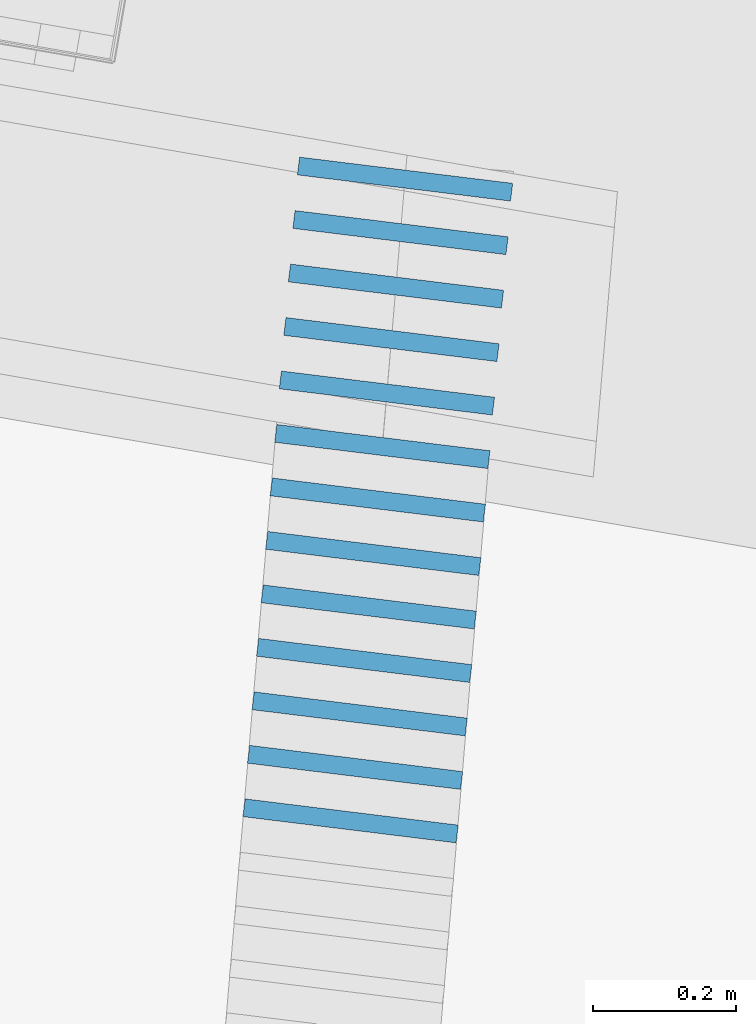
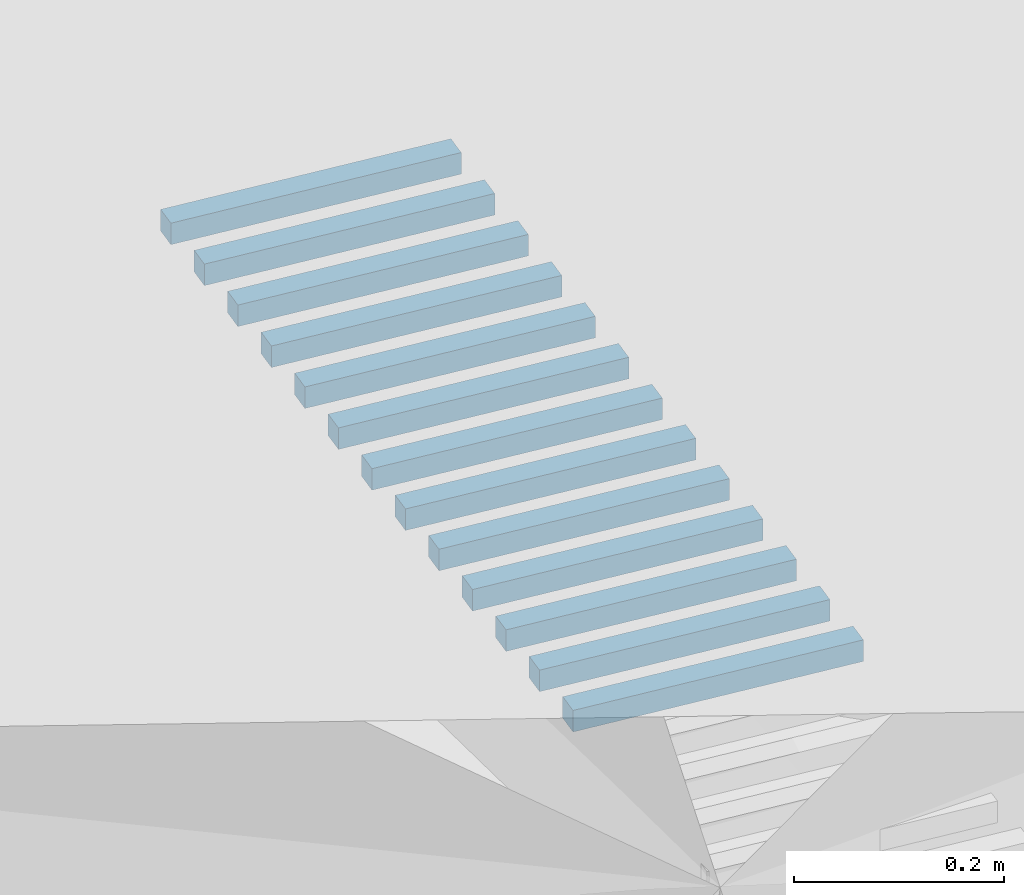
# Not in any storey, part 5 of 45: 13 members.
"""IFC4 model written with IfcOpenShell, lengths in metres."""

from ifc_helpers import new_model, si_unit, direction, frame, origin_with_axes, place, context, subcontext, project, spatial, rectangle, extrude, material, material_profile, profile_set, profile_usage, type_object, element, save


model = new_model("IFC4")

# Units and contexts
model_context = context("Model", 3, precision=1e-05, world=origin_with_axes(), true_north=direction((0.0, 1.0)))
body_context = subcontext(model_context, "Body", "Model", "MODEL_VIEW")
ifc_project = project(units=[si_unit("VOLUMEUNIT", "CUBIC_METRE"), si_unit("LENGTHUNIT", "METRE"), si_unit("AREAUNIT", "SQUARE_METRE")], contexts=[model_context])

# Site
site_placement = place(None, origin_with_axes())
site = spatial("IfcSite", under=ifc_project, at=site_placement, Name="Lares · Rua das Mercês · artigo 4771")

# Members
ifc_material = material(Name="Aço galvanizado / Stahl verzinkt", Category="steel")
ifc_material_profile = material_profile(ifc_material, rectangle(XDim=0.025, YDim=0.025))
ifc_profile_set = profile_set([ifc_material_profile], Name="R0.025")
ifc_profile_usage_1 = profile_usage(ifc_profile_set)
member_type = type_object("IfcMemberType", Name="R0.025 / galvanized", PredefinedType="NOTDEFINED", material=ifc_profile_set)
member_1_placement = place(site_placement, frame((82.7192237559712, 5.17432462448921, 16.2272180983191), z_axis=(0.992517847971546, -0.122099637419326, 0.0), x_axis=(-0.122099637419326, -0.992517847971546, 0.0)))
element("IfcMember", 1, at=member_1_placement, inside=site, type_object=member_type, material=ifc_profile_usage_1, Name="Interceção · grelha rua", context=body_context, shape_type="SweptSolid", body=[
    extrude(rectangle(XDim=0.025, YDim=0.025), origin_with_axes(), (0.0, 0.0, 1.0), 0.299999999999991),
])
ifc_profile_usage_2 = profile_usage(ifc_profile_set)
member_2_placement = place(site_placement, frame((82.7255676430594, 5.24905584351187, 16.2264680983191), z_axis=(0.992517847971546, -0.122099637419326, 0.0), x_axis=(-0.122099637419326, -0.992517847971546, 0.0)))
element("IfcMember", 2, at=member_2_placement, inside=site, type_object=member_type, material=ifc_profile_usage_2, Name="Interceção · grelha rua", context=body_context, shape_type="SweptSolid", body=[
    extrude(rectangle(XDim=0.025, YDim=0.025), origin_with_axes(), (0.0, 0.0, 1.0), 0.299999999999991),
])
ifc_profile_usage_3 = profile_usage(ifc_profile_set)
member_3_placement = place(site_placement, frame((82.7319115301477, 5.32378706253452, 16.2257180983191), z_axis=(0.992517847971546, -0.122099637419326, 0.0), x_axis=(-0.122099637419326, -0.992517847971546, 0.0)))
element("IfcMember", 3, at=member_3_placement, inside=site, type_object=member_type, material=ifc_profile_usage_3, Name="Interceção · grelha rua", context=body_context, shape_type="SweptSolid", body=[
    extrude(rectangle(XDim=0.025, YDim=0.025), origin_with_axes(), (0.0, 0.0, 1.0), 0.299999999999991),
])
ifc_profile_usage_4 = profile_usage(ifc_profile_set)
member_4_placement = place(site_placement, frame((82.7382554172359, 5.39851828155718, 16.2249680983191), z_axis=(0.992517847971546, -0.122099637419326, 0.0), x_axis=(-0.122099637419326, -0.992517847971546, 0.0)))
element("IfcMember", 4, at=member_4_placement, inside=site, type_object=member_type, material=ifc_profile_usage_4, Name="Interceção · grelha rua", context=body_context, shape_type="SweptSolid", body=[
    extrude(rectangle(XDim=0.025, YDim=0.025), origin_with_axes(), (0.0, 0.0, 1.0), 0.299999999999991),
])
ifc_profile_usage_5 = profile_usage(ifc_profile_set)
member_5_placement = place(site_placement, frame((82.7445993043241, 5.47324950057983, 16.2242180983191), z_axis=(0.992517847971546, -0.122099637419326, 0.0), x_axis=(-0.122099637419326, -0.992517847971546, 0.0)))
element("IfcMember", 5, at=member_5_placement, inside=site, type_object=member_type, material=ifc_profile_usage_5, Name="Interceção · grelha rua", context=body_context, shape_type="SweptSolid", body=[
    extrude(rectangle(XDim=0.025, YDim=0.025), origin_with_axes(), (0.0, 0.0, 1.0), 0.299999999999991),
])
ifc_profile_usage_6 = profile_usage(ifc_profile_set)
member_6_placement = place(site_placement, frame((82.7509431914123, 5.54798071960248, 16.2234680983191), z_axis=(0.992517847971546, -0.122099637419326, 0.0), x_axis=(-0.122099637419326, -0.992517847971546, 0.0)))
element("IfcMember", 6, at=member_6_placement, inside=site, type_object=member_type, material=ifc_profile_usage_6, Name="Interceção · grelha rua", context=body_context, shape_type="SweptSolid", body=[
    extrude(rectangle(XDim=0.025, YDim=0.025), origin_with_axes(), (0.0, 0.0, 1.0), 0.299999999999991),
])
ifc_profile_usage_7 = profile_usage(ifc_profile_set)
member_7_placement = place(site_placement, frame((82.7572870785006, 5.62271193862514, 16.2227180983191), z_axis=(0.992517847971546, -0.122099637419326, 0.0), x_axis=(-0.122099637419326, -0.992517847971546, 0.0)))
element("IfcMember", 7, at=member_7_placement, inside=site, type_object=member_type, material=ifc_profile_usage_7, Name="Interceção · grelha rua", context=body_context, shape_type="SweptSolid", body=[
    extrude(rectangle(XDim=0.025, YDim=0.025), origin_with_axes(), (0.0, 0.0, 1.0), 0.299999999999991),
])
ifc_profile_usage_8 = profile_usage(ifc_profile_set)
member_8_placement = place(site_placement, frame((82.7636309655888, 5.69744315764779, 16.2224827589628), z_axis=(0.992517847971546, -0.122099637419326, 0.0), x_axis=(-0.122099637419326, -0.992517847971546, 0.0)))
element("IfcMember", 8, at=member_8_placement, inside=site, type_object=member_type, material=ifc_profile_usage_8, Name="Interceção · grelha rua", context=body_context, shape_type="SweptSolid", body=[
    extrude(rectangle(XDim=0.025, YDim=0.025), origin_with_axes(), (0.0, 0.0, 1.0), 0.299999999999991),
])
ifc_profile_usage_9 = profile_usage(ifc_profile_set)
member_9_placement = place(site_placement, frame((82.769974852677, 5.77217437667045, 16.2224827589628), z_axis=(0.992517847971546, -0.122099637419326, 0.0), x_axis=(-0.122099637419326, -0.992517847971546, 0.0)))
element("IfcMember", 9, at=member_9_placement, inside=site, type_object=member_type, material=ifc_profile_usage_9, Name="Interceção · grelha rua", context=body_context, shape_type="SweptSolid", body=[
    extrude(rectangle(XDim=0.025, YDim=0.025), origin_with_axes(), (0.0, 0.0, 1.0), 0.299999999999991),
])
ifc_profile_usage_10 = profile_usage(ifc_profile_set)
member_10_placement = place(site_placement, frame((82.7763187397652, 5.8469055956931, 16.2224827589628), z_axis=(0.992517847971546, -0.122099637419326, 0.0), x_axis=(-0.122099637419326, -0.992517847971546, 0.0)))
element("IfcMember", 10, at=member_10_placement, inside=site, type_object=member_type, material=ifc_profile_usage_10, Name="Interceção · grelha rua", context=body_context, shape_type="SweptSolid", body=[
    extrude(rectangle(XDim=0.025, YDim=0.025), origin_with_axes(), (0.0, 0.0, 1.0), 0.299999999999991),
])
ifc_profile_usage_11 = profile_usage(ifc_profile_set)
member_11_placement = place(site_placement, frame((82.7826626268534, 5.92163681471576, 16.2224827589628), z_axis=(0.992517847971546, -0.122099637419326, 0.0), x_axis=(-0.122099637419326, -0.992517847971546, 0.0)))
element("IfcMember", 11, at=member_11_placement, inside=site, type_object=member_type, material=ifc_profile_usage_11, Name="Interceção · grelha rua", context=body_context, shape_type="SweptSolid", body=[
    extrude(rectangle(XDim=0.025, YDim=0.025), origin_with_axes(), (0.0, 0.0, 1.0), 0.299999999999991),
])
ifc_profile_usage_12 = profile_usage(ifc_profile_set)
member_12_placement = place(site_placement, frame((82.7890065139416, 5.99636803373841, 16.2224827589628), z_axis=(0.992517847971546, -0.122099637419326, 0.0), x_axis=(-0.122099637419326, -0.992517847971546, 0.0)))
element("IfcMember", 12, at=member_12_placement, inside=site, type_object=member_type, material=ifc_profile_usage_12, Name="Interceção · grelha rua", context=body_context, shape_type="SweptSolid", body=[
    extrude(rectangle(XDim=0.025, YDim=0.025), origin_with_axes(), (0.0, 0.0, 1.0), 0.299999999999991),
])
ifc_profile_usage_13 = profile_usage(ifc_profile_set)
member_13_placement = place(site_placement, frame((82.7953504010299, 6.07109925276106, 16.2224827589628), z_axis=(0.992517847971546, -0.122099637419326, 0.0), x_axis=(-0.122099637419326, -0.992517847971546, 0.0)))
element("IfcMember", 13, at=member_13_placement, inside=site, type_object=member_type, material=ifc_profile_usage_13, Name="Interceção · grelha rua", context=body_context, shape_type="SweptSolid", body=[
    extrude(rectangle(XDim=0.025, YDim=0.025), origin_with_axes(), (0.0, 0.0, 1.0), 0.299999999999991),
])

save(model, "model.ifc")
